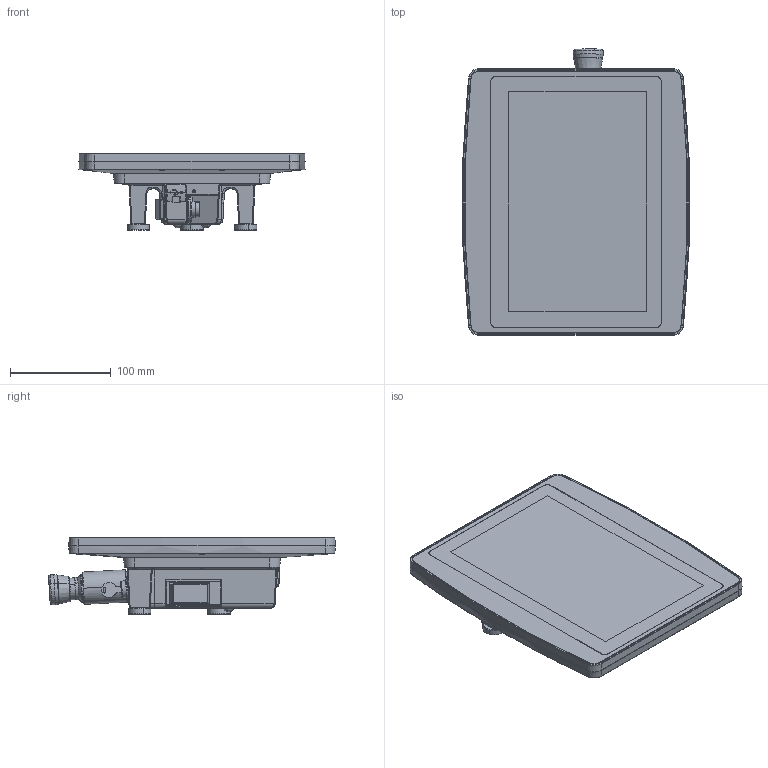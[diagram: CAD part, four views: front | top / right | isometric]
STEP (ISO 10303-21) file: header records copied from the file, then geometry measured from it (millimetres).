
FILE_DESCRIPTION (( 'STEP AP214' ), '1' );
FILE_NAME ('HGT1051 01-245-1051 (20180412).STEP', '2018-04-12T11:02:21', ( 'SIGMATEK GmbH & Co KG' ), ( 'SIGMATEK GmbH & Co KG' ), 'SwSTEP 2.0', 'SolidWorks 2017', '' );
FILE_SCHEMA (( 'AUTOMOTIVE_DESIGN' ));
Length unit declared in the file: millimetre
Products named in the file (1): HGT1051 01-245-1051 (20180412)
Bounding box: 224.72 x 283.78 x 76 mm (x, y, z)
Surface area: 175142.9 mm2 (no closed solid volume)
Topology: 0 solids, 48 shells, 775 faces, 2826 edges, 2037 vertices
Faces by surface type: cylinder 273, plane 181, bspline 149, cone 92, torus 58, sphere 22
Entity records: 47398 total; most frequent: CARTESIAN_POINT 16054, DIRECTION 4870, ORIENTED_EDGE 4280, EDGE_CURVE 2779, VERTEX_POINT 2036, AXIS2_PLACEMENT_3D 1864, CIRCLE 1237, LINE 1142
